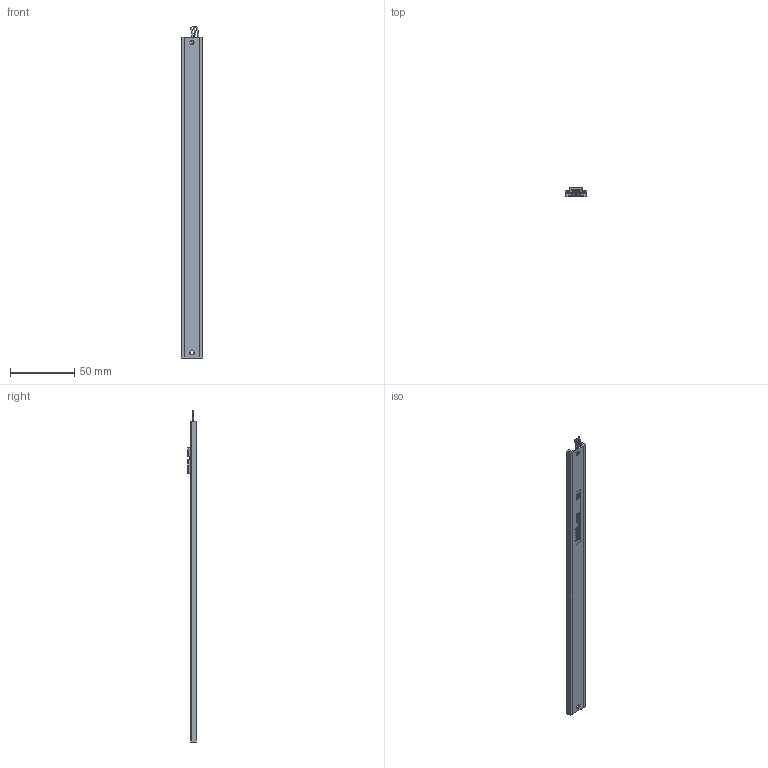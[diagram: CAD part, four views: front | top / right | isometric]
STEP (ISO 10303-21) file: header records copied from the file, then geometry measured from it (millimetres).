
FILE_DESCRIPTION (( 'STEP AP214' ), '1' );
FILE_NAME ('MBX_200.STEP', '2016-11-28T08:18:54', ( '' ), ( '' ), 'SwSTEP 2.0', 'SolidWorks 2016', '' );
FILE_SCHEMA (( 'AUTOMOTIVE_DESIGN' ));
Length unit declared in the file: millimetre
Products named in the file (8): Label 50x6-Vorlage; kabel_dummy_mbx; MBW-Resistor 200; MBW-Schiene 250-200; MBX_Elero_Schleiferträger_Komp_Heraeus Schleifer eingefedert; 32.001.02.hlf.clip_mit Klemme; 32.001.02.hlf.slider_mit Klemme; MBX_200
Assembly tree (7 placements, depth 3):
  MBX_200
    MBX_Elero_Schleiferträger_Komp_Heraeus Schleifer eingefedert
      32.001.02.hlf.slider_mit Klemme
      32.001.02.hlf.clip_mit Klemme
    MBW-Schiene 250-200
    MBW-Resistor 200
    kabel_dummy_mbx
    Label 50x6-Vorlage
Bounding box: 17 x 6.77 x 258.82 mm (x, y, z)
Volume: 10811.2 mm3; surface area: 20014.4 mm2
Topology: 8 solids, 8 shells, 1259 faces, 3420 edges, 2223 vertices
Faces by surface type: plane 823, bspline 248, cylinder 157, sphere 18, torus 8, cone 5
Entity records: 54226 total; most frequent: CARTESIAN_POINT 14018, ORIENTED_EDGE 6804, DIRECTION 5217, EDGE_CURVE 3402, LINE 2559, VECTOR 2559, VERTEX_POINT 2223, EDGE_LOOP 1331
